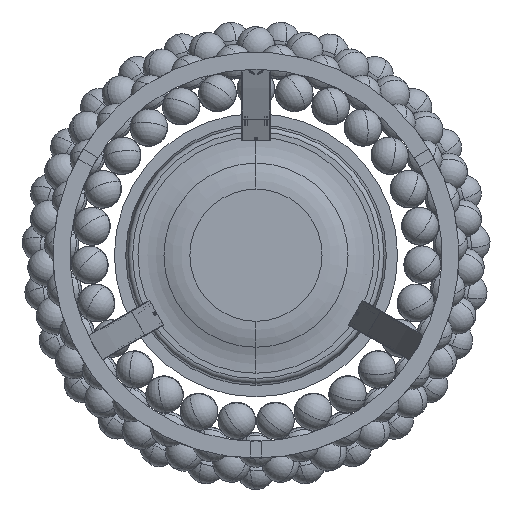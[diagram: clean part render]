
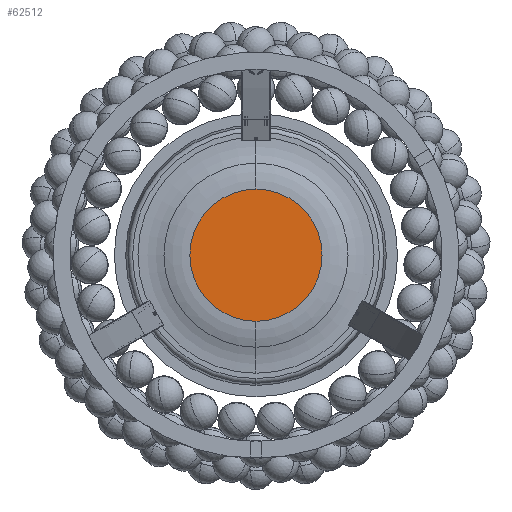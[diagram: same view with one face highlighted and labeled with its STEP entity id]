
A CAD part, front view. The second image highlights one B-rep face of the part: STEP entity #62512.
In plain terms, the highlighted planar face has unit normal (0, -1, 0).
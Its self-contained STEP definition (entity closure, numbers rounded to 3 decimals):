
#4058 = DIRECTION ( 'NONE',  ( 0., -1., 0. ) ) ;
#19912 = DIRECTION ( 'NONE',  ( 0., 0., 1. ) ) ;
#21023 = CIRCLE ( 'NONE', #23367, 70. ) ;
#21215 = CARTESIAN_POINT ( 'NONE',  ( 0., 1354.5, 0. ) ) ;
#23367 = AXIS2_PLACEMENT_3D ( 'NONE', #21215, #72693, #43659 ) ;
#24503 = CARTESIAN_POINT ( 'NONE',  ( 0., 1354.5, 70. ) ) ;
#31160 = EDGE_LOOP ( 'NONE', ( #55306, #44843 ) ) ;
#32271 = CIRCLE ( 'NONE', #66358, 70. ) ;
#32395 = EDGE_CURVE ( 'NONE', #42519, #59378, #32271, .T. ) ;
#37688 = AXIS2_PLACEMENT_3D ( 'NONE', #52439, #58328, #69399 ) ;
#42519 = VERTEX_POINT ( 'NONE', #70887 ) ;
#43082 = CARTESIAN_POINT ( 'NONE',  ( 0., 1354.5, 0. ) ) ;
#43659 = DIRECTION ( 'NONE',  ( 0., 0., 1. ) ) ;
#44618 = EDGE_CURVE ( 'NONE', #59378, #42519, #21023, .T. ) ;
#44843 = ORIENTED_EDGE ( 'NONE', *, *, #32395, .T. ) ;
#52439 = CARTESIAN_POINT ( 'NONE',  ( 70., 1354.5, 0. ) ) ;
#53176 = FACE_OUTER_BOUND ( 'NONE', #31160, .T. ) ;
#55306 = ORIENTED_EDGE ( 'NONE', *, *, #44618, .T. ) ;
#58328 = DIRECTION ( 'NONE',  ( 0., 1., 0. ) ) ;
#58720 = PLANE ( 'NONE',  #37688 ) ;
#59378 = VERTEX_POINT ( 'NONE', #24503 ) ;
#62512 = ADVANCED_FACE ( 'NONE', ( #53176 ), #58720, .F. ) ;
#66358 = AXIS2_PLACEMENT_3D ( 'NONE', #43082, #4058, #19912 ) ;
#69399 = DIRECTION ( 'NONE',  ( 0., 0., -1. ) ) ;
#70887 = CARTESIAN_POINT ( 'NONE',  ( 0., 1354.5, -70. ) ) ;
#72693 = DIRECTION ( 'NONE',  ( 0., -1., 0. ) ) ;
